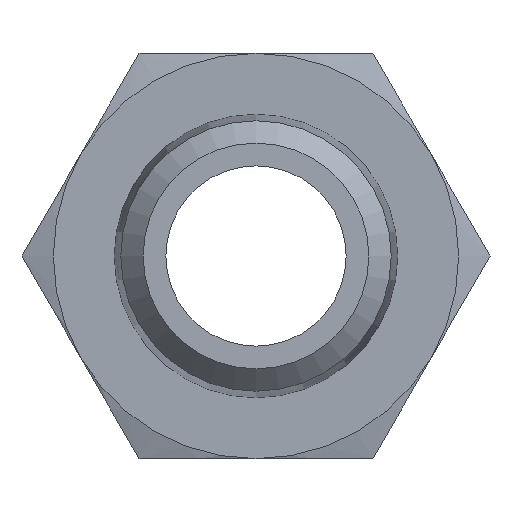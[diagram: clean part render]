
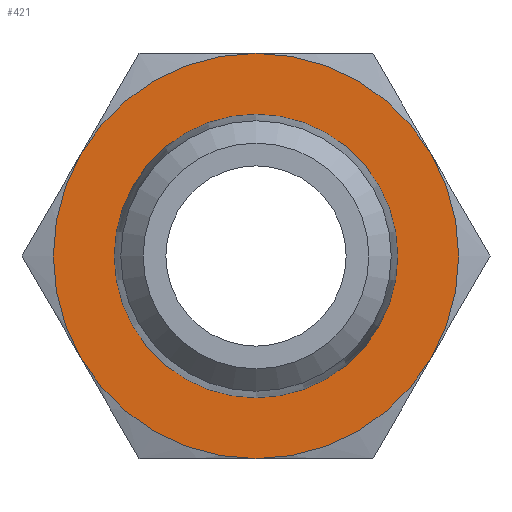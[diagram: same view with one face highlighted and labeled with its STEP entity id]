
A CAD part, left-side view. The second image highlights one B-rep face of the part: STEP entity #421.
In plain terms, the highlighted planar face has unit normal (-1, 0, 0).
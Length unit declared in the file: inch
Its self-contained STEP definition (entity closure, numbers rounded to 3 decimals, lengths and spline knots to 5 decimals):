
#38=PLANE('',#481);
#47=CIRCLE('',#453,0.281);
#48=CIRCLE('',#455,0.281);
#49=CIRCLE('',#457,0.281);
#50=CIRCLE('',#459,0.281);
#51=CIRCLE('',#461,0.281);
#61=CIRCLE('',#480,0.19655);
#62=CIRCLE('',#482,0.281);
#110=ORIENTED_EDGE('',*,*,#192,.F.);
#111=ORIENTED_EDGE('',*,*,#194,.F.);
#112=ORIENTED_EDGE('',*,*,#217,.F.);
#113=ORIENTED_EDGE('',*,*,#184,.F.);
#114=ORIENTED_EDGE('',*,*,#185,.F.);
#115=ORIENTED_EDGE('',*,*,#188,.F.);
#116=ORIENTED_EDGE('',*,*,#216,.T.);
#184=EDGE_CURVE('',#239,#237,#47,.T.);
#185=EDGE_CURVE('',#240,#239,#48,.T.);
#188=EDGE_CURVE('',#242,#240,#49,.T.);
#192=EDGE_CURVE('',#245,#242,#50,.T.);
#194=EDGE_CURVE('',#246,#245,#51,.T.);
#216=EDGE_CURVE('',#263,#263,#61,.T.);
#217=EDGE_CURVE('',#237,#246,#62,.T.);
#237=VERTEX_POINT('',#637);
#239=VERTEX_POINT('',#643);
#240=VERTEX_POINT('',#647);
#242=VERTEX_POINT('',#659);
#245=VERTEX_POINT('',#675);
#246=VERTEX_POINT('',#683);
#263=VERTEX_POINT('',#767);
#316=EDGE_LOOP('',(#110,#111,#112,#113,#114,#115));
#317=EDGE_LOOP('',(#116));
#362=FACE_BOUND('',#316,.T.);
#363=FACE_BOUND('',#317,.T.);
#421=ADVANCED_FACE('',(#362,#363),#38,.F.);
#453=AXIS2_PLACEMENT_3D('',#644,#513,#514);
#455=AXIS2_PLACEMENT_3D('',#646,#517,#518);
#457=AXIS2_PLACEMENT_3D('',#658,#521,#522);
#459=AXIS2_PLACEMENT_3D('',#676,#525,#526);
#461=AXIS2_PLACEMENT_3D('',#682,#529,#530);
#480=AXIS2_PLACEMENT_3D('',#766,#567,#568);
#481=AXIS2_PLACEMENT_3D('',#768,#569,#570);
#482=AXIS2_PLACEMENT_3D('',#769,#571,#572);
#513=DIRECTION('',(1.,0.,0.));
#514=DIRECTION('',(0.,0.,-1.));
#517=DIRECTION('',(1.,0.,0.));
#518=DIRECTION('',(0.,0.,-1.));
#521=DIRECTION('',(1.,0.,0.));
#522=DIRECTION('',(0.,0.,-1.));
#525=DIRECTION('',(1.,0.,0.));
#526=DIRECTION('',(0.,0.,-1.));
#529=DIRECTION('',(1.,0.,0.));
#530=DIRECTION('',(0.,0.,-1.));
#567=DIRECTION('',(1.,0.,0.));
#568=DIRECTION('',(0.,0.,-1.));
#569=DIRECTION('',(1.,0.,0.));
#570=DIRECTION('',(0.,0.,-1.));
#571=DIRECTION('',(1.,0.,0.));
#572=DIRECTION('',(0.,0.,-1.));
#637=CARTESIAN_POINT('',(0.375,-0.24335,-0.1405));
#643=CARTESIAN_POINT('',(0.375,-0.24335,0.1405));
#644=CARTESIAN_POINT('',(0.375,0.,0.));
#646=CARTESIAN_POINT('',(0.375,0.,0.));
#647=CARTESIAN_POINT('',(0.375,0.,0.281));
#658=CARTESIAN_POINT('',(0.375,0.,0.));
#659=CARTESIAN_POINT('',(0.375,0.24335,0.1405));
#675=CARTESIAN_POINT('',(0.375,0.24335,-0.1405));
#676=CARTESIAN_POINT('',(0.375,0.,0.));
#682=CARTESIAN_POINT('',(0.375,0.,0.));
#683=CARTESIAN_POINT('',(0.375,0.,-0.281));
#766=CARTESIAN_POINT('',(0.375,0.,0.));
#767=CARTESIAN_POINT('',(0.375,0.,-0.19655));
#768=CARTESIAN_POINT('',(0.375,0.19655,0.));
#769=CARTESIAN_POINT('',(0.375,0.,0.));
